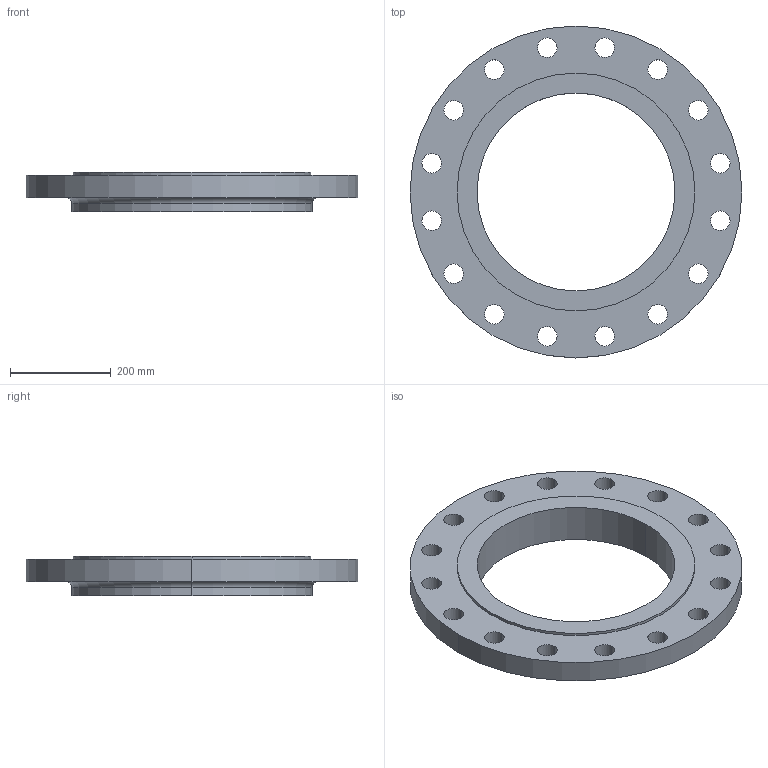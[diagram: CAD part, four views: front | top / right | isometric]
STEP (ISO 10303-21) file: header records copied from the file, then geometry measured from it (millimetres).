
FILE_DESCRIPTION (( 'STEP AP214' ), '1' );
FILE_NAME ('PN40 DN400 Type 13 - Type E Face.STEP', '2019-01-05T23:15:32', ( '' ), ( '' ), 'SwSTEP 2.0', 'SolidWorks 2019', '' );
FILE_SCHEMA (( 'AUTOMOTIVE_DESIGN' ));
Length unit declared in the file: millimetre
Products named in the file (1): PN40 DN400 Type 13 - Type E Face
Bounding box: 660 x 660 x 78 mm (x, y, z)
Volume: 10925717.5 mm3; surface area: 721260.3 mm2
Topology: 1 solids, 1 shells, 46 faces, 124 edges, 82 vertices
Faces by surface type: cylinder 40, plane 4, torus 2
Entity records: 1598 total; most frequent: DIRECTION 302, CARTESIAN_POINT 253, ORIENTED_EDGE 248, AXIS2_PLACEMENT_3D 131, EDGE_CURVE 124, CIRCLE 84, EDGE_LOOP 82, VERTEX_POINT 82
